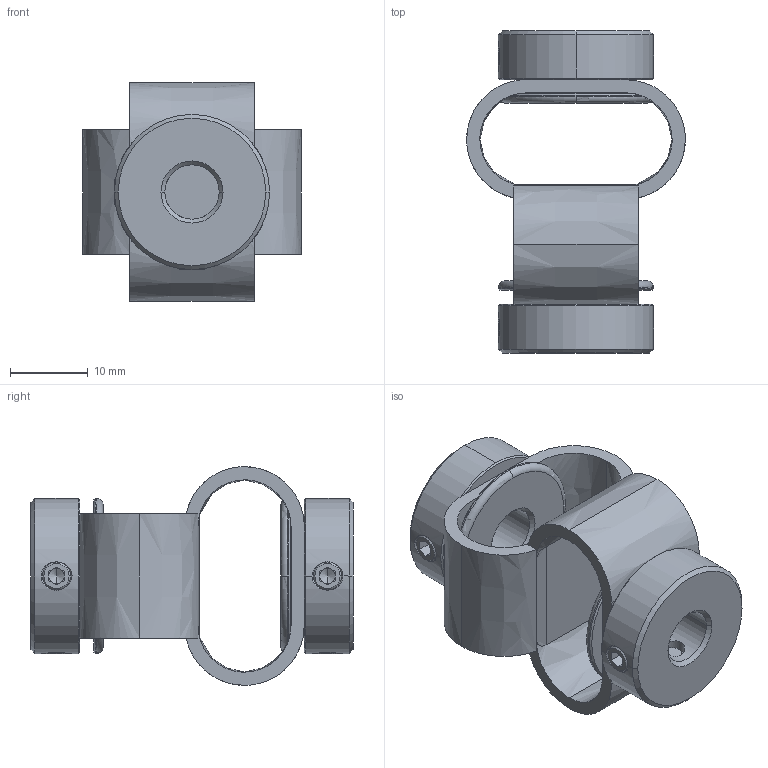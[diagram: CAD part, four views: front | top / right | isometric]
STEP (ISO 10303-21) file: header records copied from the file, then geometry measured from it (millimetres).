
FILE_DESCRIPTION (( 'STEP AP203' ), '1' );
FILE_NAME ('LS-D-D27L40-7-7.STEP', '2021-10-28T06:37:02', ( '' ), ( '' ), 'SwSTEP 2.0', 'SolidWorks 2018', '' );
FILE_SCHEMA (( 'CONFIG_CONTROL_DESIGN' ));
Length unit declared in the file: millimetre
Products named in the file (1): LS-D-D27L40-7-7
Bounding box: 28.2 x 41.54 x 28.2 mm (x, y, z)
Volume: 7134.5 mm3; surface area: 6687.5 mm2
Topology: 1 solids, 1 shells, 190 faces, 490 edges, 306 vertices
Faces by surface type: plane 86, cone 54, cylinder 30, bspline 16, torus 4
Entity records: 7783 total; most frequent: CARTESIAN_POINT 3225, ORIENTED_EDGE 964, DIRECTION 886, EDGE_CURVE 482, AXIS2_PLACEMENT_3D 345, VERTEX_POINT 306, EDGE_LOOP 218, VECTOR 196
